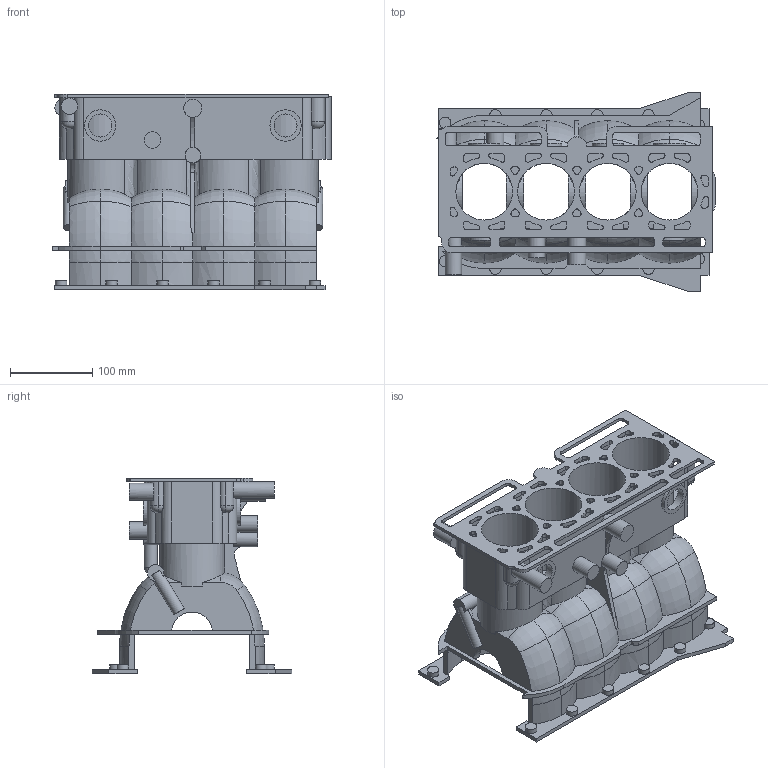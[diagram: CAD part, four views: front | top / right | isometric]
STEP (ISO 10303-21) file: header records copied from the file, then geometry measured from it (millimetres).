
FILE_DESCRIPTION(('a Product shape'),'1');
FILE_NAME('Euclid Shape Model','1998-09-03T14:50:58',('Author Name'),( 'MATRA-DATAVISION'),'OL-2.0C','EUCLID','Authorisation status');
FILE_SCHEMA(('AUTOMOTIVE_DESIGN_CC2 { 1 2 10303 214 -1 1 5 4 }'));
Products named in the file (1): the product name
Bounding box: 338.15 x 242.56 x 237.5 mm (x, y, z)
Volume: 2146357.4 mm3; surface area: 740755.5 mm2
Topology: 1 solids, 1 shells, 918 faces, 2660 edges, 1753 vertices
Faces by surface type: cylinder 379, plane 336, bspline 151, sphere 33, torus 19
Full cylindrical faces by diameter (mm): 14 x4, 16 x1, 19 x1, 20 x2, 21 x2, 22 x1, 28 x7, 38 x4, 69 x4
Entity records: 105943 total; most frequent: CARTESIAN_POINT 58390, DIRECTION 7489, ORIENTED_EDGE 5320, PCURVE 5320, DEFINITIONAL_REPRESENTATION 5320, LINE 4337, VECTOR 4337, EDGE_CURVE 2660
